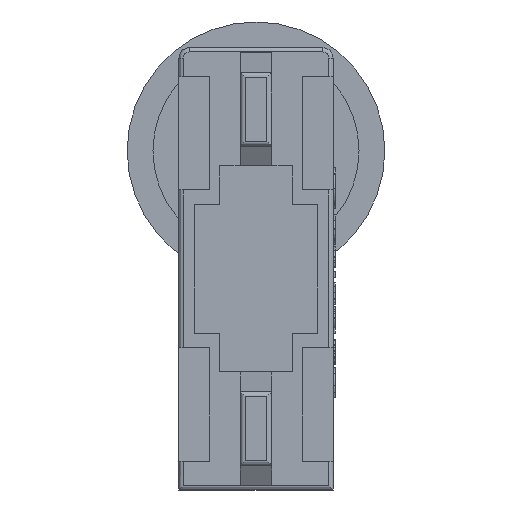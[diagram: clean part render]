
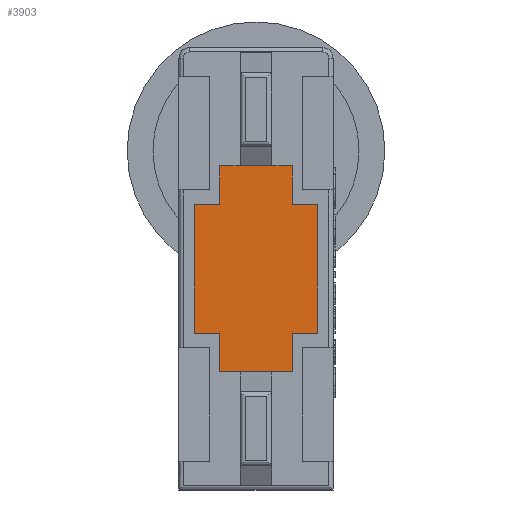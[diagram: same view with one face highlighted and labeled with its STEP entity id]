
A CAD part, front view. The second image highlights one B-rep face of the part: STEP entity #3903.
In plain terms, the highlighted planar face has unit normal (0, -1, 0).
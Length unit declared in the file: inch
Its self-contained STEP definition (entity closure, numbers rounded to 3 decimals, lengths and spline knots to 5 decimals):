
#363=FACE_OUTER_BOUND('',#585,.T.);
#585=EDGE_LOOP('',(#2619,#2620,#2621,#2622,#2623,#2624,#2625,#2626,#2627,
#2628,#2629,#2630));
#819=LINE('',#5255,#1218);
#825=LINE('',#5267,#1224);
#829=LINE('',#5276,#1228);
#831=LINE('',#5282,#1230);
#836=LINE('',#5291,#1235);
#837=LINE('',#5294,#1236);
#840=LINE('',#5300,#1239);
#841=LINE('',#5301,#1240);
#842=LINE('',#5302,#1241);
#843=LINE('',#5304,#1242);
#844=LINE('',#5305,#1243);
#845=LINE('',#5306,#1244);
#1218=VECTOR('',#4422,0.3937);
#1224=VECTOR('',#4430,0.3937);
#1228=VECTOR('',#4436,0.3937);
#1230=VECTOR('',#4440,0.3937);
#1235=VECTOR('',#4447,0.3937);
#1236=VECTOR('',#4450,0.3937);
#1239=VECTOR('',#4455,0.3937);
#1240=VECTOR('',#4456,0.3937);
#1241=VECTOR('',#4457,0.3937);
#1242=VECTOR('',#4458,0.3937);
#1243=VECTOR('',#4459,0.3937);
#1244=VECTOR('',#4460,0.3937);
#1616=VERTEX_POINT('',#5251);
#1618=VERTEX_POINT('',#5254);
#1621=VERTEX_POINT('',#5261);
#1623=VERTEX_POINT('',#5265);
#1625=VERTEX_POINT('',#5270);
#1627=VERTEX_POINT('',#5274);
#1628=VERTEX_POINT('',#5278);
#1630=VERTEX_POINT('',#5281);
#1633=VERTEX_POINT('',#5289);
#1634=VERTEX_POINT('',#5293);
#1636=VERTEX_POINT('',#5299);
#1637=VERTEX_POINT('',#5303);
#2006=EDGE_CURVE('',#1616,#1618,#819,.T.);
#2012=EDGE_CURVE('',#1623,#1621,#825,.T.);
#2016=EDGE_CURVE('',#1627,#1625,#829,.T.);
#2018=EDGE_CURVE('',#1628,#1630,#831,.T.);
#2023=EDGE_CURVE('',#1633,#1628,#836,.T.);
#2024=EDGE_CURVE('',#1621,#1634,#837,.T.);
#2027=EDGE_CURVE('',#1636,#1616,#840,.T.);
#2028=EDGE_CURVE('',#1634,#1636,#841,.T.);
#2029=EDGE_CURVE('',#1630,#1623,#842,.T.);
#2030=EDGE_CURVE('',#1637,#1633,#843,.T.);
#2031=EDGE_CURVE('',#1625,#1637,#844,.T.);
#2032=EDGE_CURVE('',#1618,#1627,#845,.T.);
#2619=ORIENTED_EDGE('',*,*,#2027,.F.);
#2620=ORIENTED_EDGE('',*,*,#2028,.F.);
#2621=ORIENTED_EDGE('',*,*,#2024,.F.);
#2622=ORIENTED_EDGE('',*,*,#2012,.F.);
#2623=ORIENTED_EDGE('',*,*,#2029,.F.);
#2624=ORIENTED_EDGE('',*,*,#2018,.F.);
#2625=ORIENTED_EDGE('',*,*,#2023,.F.);
#2626=ORIENTED_EDGE('',*,*,#2030,.F.);
#2627=ORIENTED_EDGE('',*,*,#2031,.F.);
#2628=ORIENTED_EDGE('',*,*,#2016,.F.);
#2629=ORIENTED_EDGE('',*,*,#2032,.F.);
#2630=ORIENTED_EDGE('',*,*,#2006,.F.);
#3781=PLANE('',#4206);
#3903=ADVANCED_FACE('',(#363),#3781,.F.);
#4206=AXIS2_PLACEMENT_3D('',#5298,#4453,#4454);
#4422=DIRECTION('',(0.,0.,1.));
#4430=DIRECTION('',(0.,0.,1.));
#4436=DIRECTION('',(0.,0.,-1.));
#4440=DIRECTION('',(0.,0.,-1.));
#4447=DIRECTION('',(-1.,0.,0.));
#4450=DIRECTION('',(-1.,0.,0.));
#4453=DIRECTION('center_axis',(0.,1.,0.));
#4454=DIRECTION('ref_axis',(0.,0.,1.));
#4455=DIRECTION('',(1.,0.,0.));
#4456=DIRECTION('',(0.,0.,1.));
#4457=DIRECTION('',(-1.,0.,0.));
#4458=DIRECTION('',(0.,0.,-1.));
#4459=DIRECTION('',(1.,0.,0.));
#4460=DIRECTION('',(1.,0.,0.));
#5251=CARTESIAN_POINT('',(-0.035,-0.079,0.0625));
#5254=CARTESIAN_POINT('',(-0.035,-0.079,0.1));
#5255=CARTESIAN_POINT('',(-0.035,-0.079,0.1));
#5261=CARTESIAN_POINT('',(-0.035,-0.079,-0.0625));
#5265=CARTESIAN_POINT('',(-0.035,-0.079,-0.1));
#5267=CARTESIAN_POINT('',(-0.035,-0.079,0.1));
#5270=CARTESIAN_POINT('',(0.035,-0.079,0.0625));
#5274=CARTESIAN_POINT('',(0.035,-0.079,0.1));
#5276=CARTESIAN_POINT('',(0.035,-0.079,-0.1));
#5278=CARTESIAN_POINT('',(0.035,-0.079,-0.0625));
#5281=CARTESIAN_POINT('',(0.035,-0.079,-0.1));
#5282=CARTESIAN_POINT('',(0.035,-0.079,-0.1));
#5289=CARTESIAN_POINT('',(0.06,-0.079,-0.0625));
#5291=CARTESIAN_POINT('',(-0.06,-0.079,-0.0625));
#5293=CARTESIAN_POINT('',(-0.06,-0.079,-0.0625));
#5294=CARTESIAN_POINT('',(-0.06,-0.079,-0.0625));
#5298=CARTESIAN_POINT('Origin',(0.,-0.079,
0.));
#5299=CARTESIAN_POINT('',(-0.06,-0.079,0.0625));
#5300=CARTESIAN_POINT('',(0.06,-0.079,0.0625));
#5301=CARTESIAN_POINT('',(-0.06,-0.079,0.0625));
#5302=CARTESIAN_POINT('',(-0.035,-0.079,-0.1));
#5303=CARTESIAN_POINT('',(0.06,-0.079,0.0625));
#5304=CARTESIAN_POINT('',(0.06,-0.079,-0.0625));
#5305=CARTESIAN_POINT('',(0.06,-0.079,0.0625));
#5306=CARTESIAN_POINT('',(0.035,-0.079,0.1));
